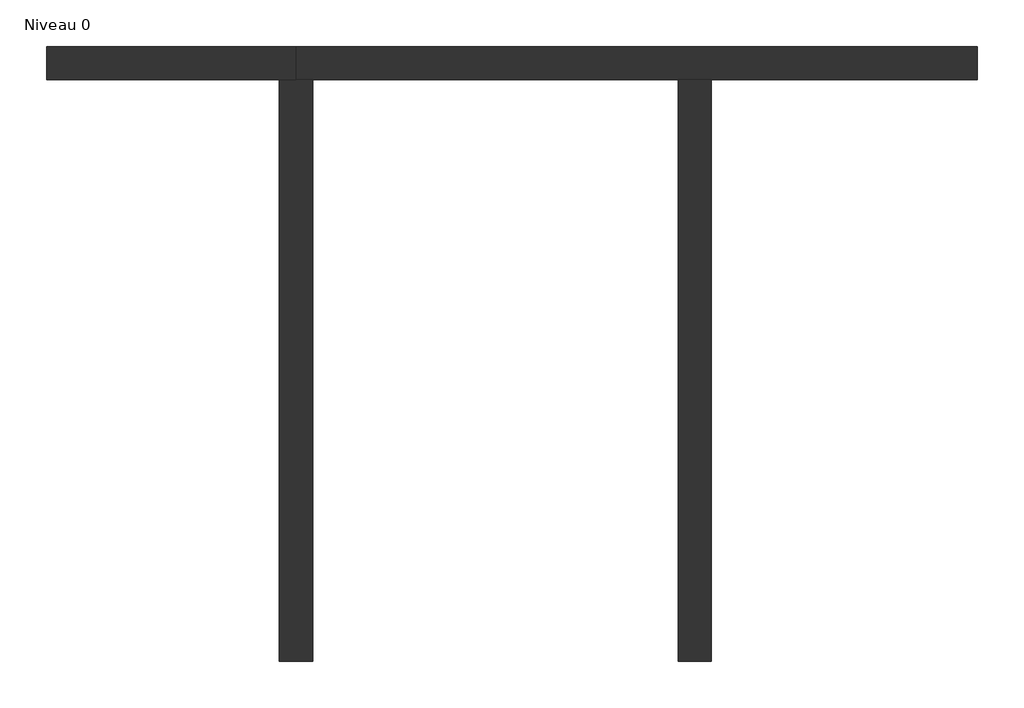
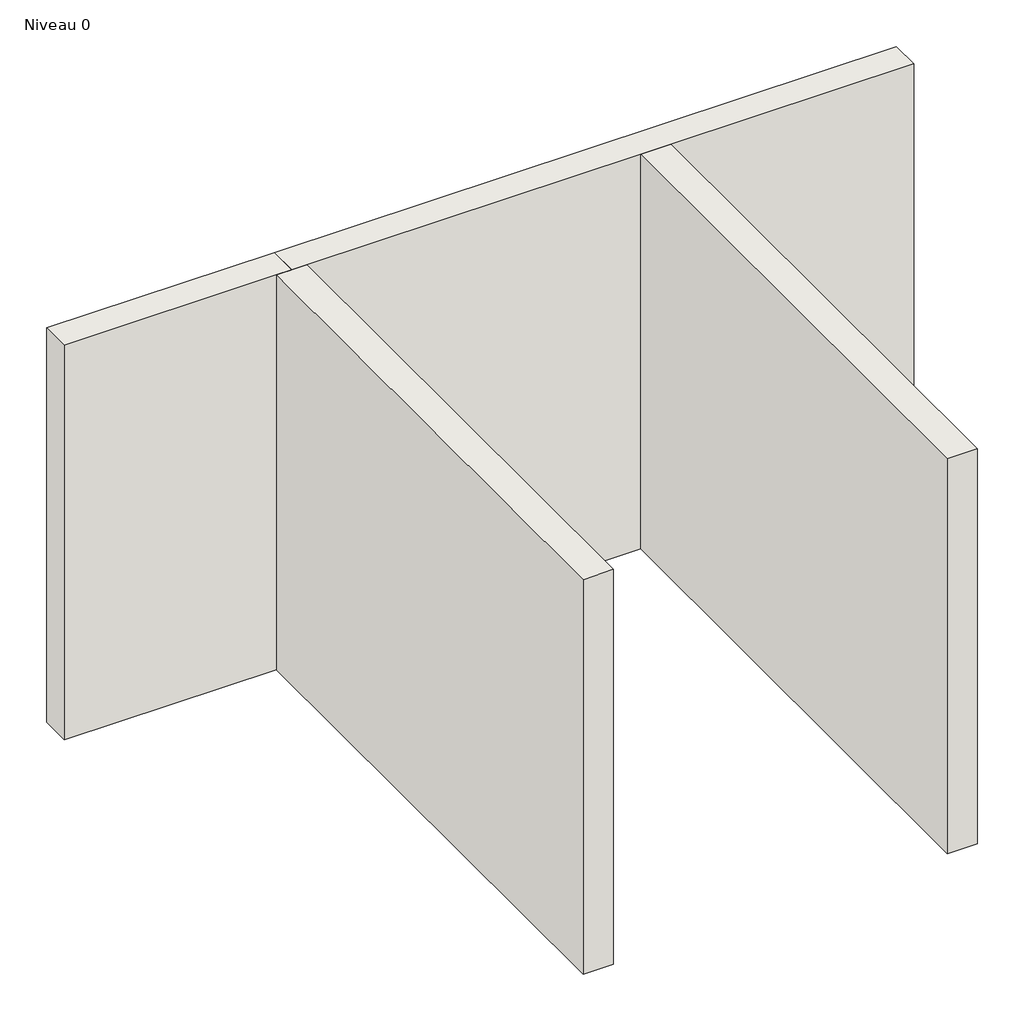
# One storey: 4 walls.
"""IFC4 building model written with IfcOpenShell, lengths in millimetres."""

from ifc_helpers import new_model, si_unit, origin, origin_with_axes, place, context, project, spatial, polyline, outline, extrude, faceted_brep, element, save

model = new_model("IFC4")

# Units and contexts
model_context = context("Model", 3, world=origin())
ifc_project = project(units=[si_unit("LENGTHUNIT", "METRE", prefix="MILLI")], contexts=[model_context])

# Site, building, storey
site = spatial("IfcSite", under=ifc_project)
building = spatial("IfcBuilding", under=site)
storey = spatial("IfcBuildingStorey", under=building, Name="Niveau 0", Elevation=0.0)

# Walls
placement = place(None, origin())
element("IfcWall", 1, ObjectType="Générique - Ext. 200 mm", at=placement, inside=storey, context=model_context, shape_type="Brep", body=[
    faceted_brep([(-33426.2575257, 10332.1407965, 0.0), (-32026.2575257, 10332.1407965, 0.0), (-31926.2575257, 10332.1407965, 0.0), (-31926.2575257, 10332.1407965, 2750.0), (-32026.2575257, 10332.1407965, 2750.0), (-33426.2575257, 10332.1407965, 2750.0), (-33426.2575257, 10532.1407965, 0.0), (-33426.2575257, 10532.1407965, 2750.0), (-31926.2575257, 10532.1407965, 2750.0), (-31926.2575257, 10532.1407965, 0.0)], [[[0, 1, 2, 3, 4, 5]], [[6, 7, 8, 9]], [[2, 1, 0, 6, 9]], [[3, 2, 9, 8]], [[5, 4, 3, 8, 7]], [[0, 5, 7, 6]]]),
])
element("IfcWall", 2, ObjectType="Générique - Ext. 200 mm", at=placement, inside=storey, context=model_context, shape_type="Brep", body=[
    faceted_brep([(-32026.2575257, 10332.1407965, 0.0), (-32026.2575257, 6832.1407965, 0.0), (-32026.2575257, 6832.1407965, 2750.0), (-32026.2575257, 10332.1407965, 2750.0), (-31826.2575257, 10332.1407965, 0.0), (-31826.2575257, 10332.1407965, 2750.0), (-31826.2575257, 6832.1407965, 2750.0), (-31826.2575257, 6832.1407965, 0.0), (-31926.2575257, 10332.1407965, 0.0), (-31926.2575257, 10332.1407965, 2750.0)], [[[0, 1, 2, 3]], [[4, 5, 6, 7]], [[1, 0, 8, 4, 7]], [[2, 1, 7, 6]], [[3, 2, 6, 5, 9]], [[0, 3, 9, 5, 4, 8]]]),
])
element("IfcWall", 3, ObjectType="Générique - Ext. 200 mm", at=placement, inside=storey, context=model_context, shape_type="SweptSolid", body=[
    extrude(outline(polyline([(-29626.2575257, 6832.1407965), (-29626.2575257, 10332.1407965), (-29426.2575257, 10332.1407965), (-29426.2575257, 6832.1407965), (-29626.2575257, 6832.1407965)])), origin_with_axes(), (0.0, 0.0, 1.0), 2750.0),
])
element("IfcWall", 4, ObjectType="Générique - Ext. 200 mm", at=placement, inside=storey, context=model_context, shape_type="Brep", body=[
    faceted_brep([(-31926.2575257, 10332.1407965, 0.0), (-31826.2575257, 10332.1407965, 0.0), (-29626.2575257, 10332.1407965, 0.0), (-29426.2575257, 10332.1407965, 0.0), (-27826.2575257, 10332.1407965, 0.0), (-27826.2575257, 10332.1407965, 2750.0), (-29426.2575257, 10332.1407965, 2750.0), (-29626.2575257, 10332.1407965, 2750.0), (-31826.2575257, 10332.1407965, 2750.0), (-31926.2575257, 10332.1407965, 2750.0), (-31926.2575257, 10532.1407965, 0.0), (-31926.2575257, 10532.1407965, 2750.0), (-27826.2575257, 10532.1407965, 2750.0), (-27826.2575257, 10532.1407965, 0.0)], [[[0, 1, 2, 3, 4, 5, 6, 7, 8, 9]], [[10, 11, 12, 13]], [[4, 3, 2, 1, 0, 10, 13]], [[5, 4, 13, 12]], [[9, 8, 7, 6, 5, 12, 11]], [[0, 9, 11, 10]]]),
])

save(model, "model.ifc")
